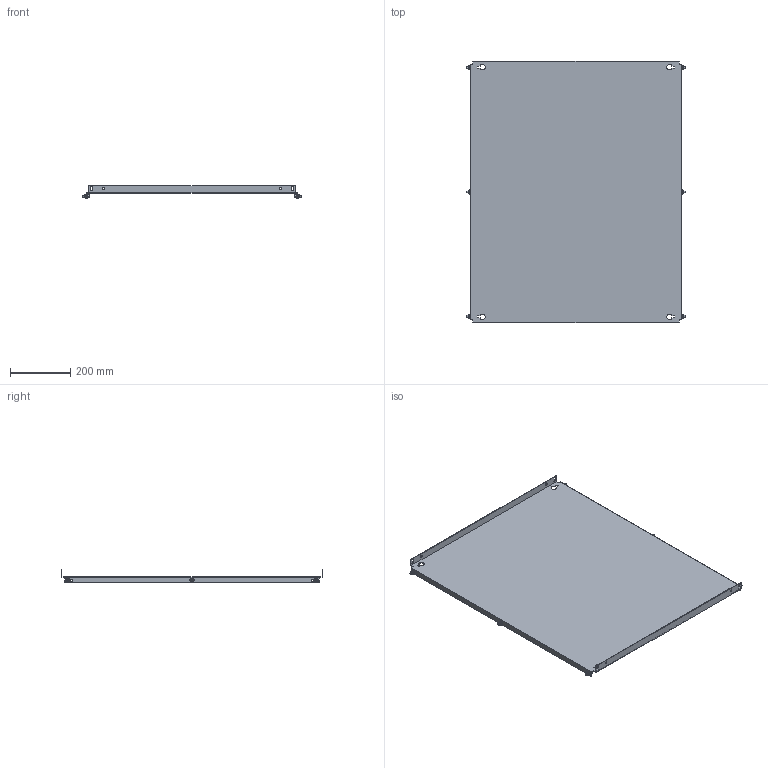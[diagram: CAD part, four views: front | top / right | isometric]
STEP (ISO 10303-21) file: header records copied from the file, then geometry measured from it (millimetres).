
FILE_DESCRIPTION(('Open CASCADE Model'),'2;1');
FILE_NAME('Open CASCADE Shape Model','2025-02-20T13:24:47',('Author'),( 'Open CASCADE'),'Open CASCADE STEP processor 7.8','Open CASCADE 7.8' ,'Unknown');
FILE_SCHEMA(('AUTOMOTIVE_DESIGN { 1 0 10303 214 1 1 1 1 }'));
Length unit declared in the file: millimetre
Products named in the file (4): Compound1; Solid1; Solid2; Solid3
Assembly tree (13 placements, depth 2):
  Compound1
    Solid1
    Solid2  x6
    Solid3  x6
Bounding box: 728 x 869 x 43 mm (x, y, z)
Volume: 1344134.6 mm3; surface area: 1350839.2 mm2
Topology: 13 solids, 13 shells, 420 faces, 1003 edges, 615 vertices
Faces by surface type: plane 192, cone 102, bspline 72, cylinder 36, torus 18
Full cylindrical faces by diameter (mm): 5 x6, 6 x12, 7 x14
Entity records: 4962 total; most frequent: CARTESIAN_POINT 1381, ORIENTED_EDGE 756, DIRECTION 650, EDGE_CURVE 378, VERTEX_POINT 245, AXIS2_PLACEMENT_3D 217, LINE 216, VECTOR 216
